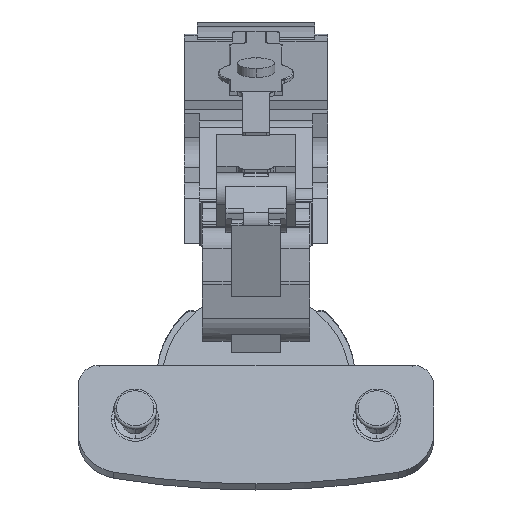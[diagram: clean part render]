
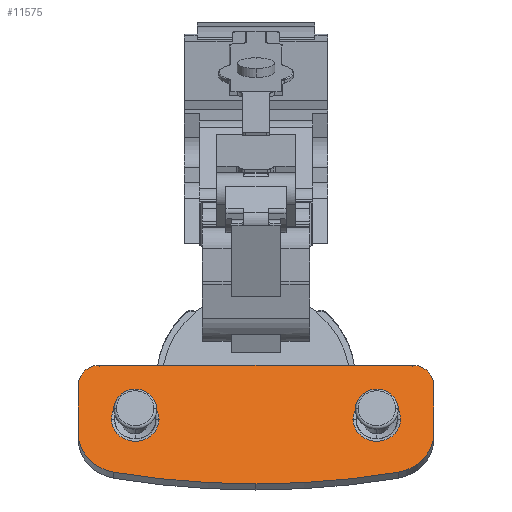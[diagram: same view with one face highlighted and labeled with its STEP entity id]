
A CAD part, top view. The second image highlights one B-rep face of the part: STEP entity #11575.
In plain terms, the highlighted planar face has unit normal (0, 0.375, 0.927).
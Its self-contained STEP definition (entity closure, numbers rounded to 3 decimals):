
#426 = ORIENTED_EDGE ( 'NONE', *, *, #11914, .T. ) ;
#720 = VERTEX_POINT ( 'NONE', #4295 ) ;
#815 = AXIS2_PLACEMENT_3D ( 'NONE', #29448, #22735, #8040 ) ;
#857 = CIRCLE ( 'NONE', #19828, 4. ) ;
#1746 = DIRECTION ( 'NONE',  ( 0., -0.375, -0.927 ) ) ;
#2323 = EDGE_CURVE ( 'NONE', #720, #29466, #18345, .T. ) ;
#3357 = DIRECTION ( 'NONE',  ( 0., 0.375, 0.927 ) ) ;
#3600 = VERTEX_POINT ( 'NONE', #28264 ) ;
#3622 = CARTESIAN_POINT ( 'NONE',  ( -6.657, 32.715, 100.286 ) ) ;
#3906 = CARTESIAN_POINT ( 'NONE',  ( 49.375, 22.61, 104.372 ) ) ;
#3995 = EDGE_LOOP ( 'NONE', ( #426, #9555 ) ) ;
#4295 = CARTESIAN_POINT ( 'NONE',  ( -10.657, 20.047, 105.409 ) ) ;
#5147 = CIRCLE ( 'NONE', #28134, 4. ) ;
#5459 = CARTESIAN_POINT ( 'NONE',  ( 47.543, 20.047, 105.409 ) ) ;
#5599 = CARTESIAN_POINT ( 'NONE',  ( -0.057, 22.61, 104.372 ) ) ;
#5696 = ORIENTED_EDGE ( 'NONE', *, *, #20021, .T. ) ;
#6056 = DIRECTION ( 'NONE',  ( 0., -0.375, -0.927 ) ) ;
#6125 = DIRECTION ( 'NONE',  ( -1., 0., 0. ) ) ;
#6297 = CARTESIAN_POINT ( 'NONE',  ( -10.657, 29.007, 101.786 ) ) ;
#6488 = CARTESIAN_POINT ( 'NONE',  ( 55.543, 29.007, 101.786 ) ) ;
#6533 = DIRECTION ( 'NONE',  ( 0., 0.375, 0.927 ) ) ;
#7154 = VECTOR ( 'NONE', #27814, 1000. ) ;
#7357 = DIRECTION ( 'NONE',  ( 0., -0.927, 0.375 ) ) ;
#7375 = CARTESIAN_POINT ( 'NONE',  ( -4.071, 12.748, 108.361 ) ) ;
#7465 = AXIS2_PLACEMENT_3D ( 'NONE', #23787, #20975, #7357 ) ;
#8040 = DIRECTION ( 'NONE',  ( 0., -0.927, 0.375 ) ) ;
#8276 = EDGE_LOOP ( 'NONE', ( #16983, #26265, #30826, #29656, #17511, #13938, #5696, #19051, #19020 ) ) ;
#8598 = FACE_OUTER_BOUND ( 'NONE', #8276, .T. ) ;
#8837 = CARTESIAN_POINT ( 'NONE',  ( 51.543, 32.715, 100.286 ) ) ;
#8934 = LINE ( 'NONE', #3622, #16544 ) ;
#9267 = AXIS2_PLACEMENT_3D ( 'NONE', #5599, #6056, #15613 ) ;
#9555 = ORIENTED_EDGE ( 'NONE', *, *, #13955, .T. ) ;
#9587 = VERTEX_POINT ( 'NONE', #22898 ) ;
#9590 = VERTEX_POINT ( 'NONE', #6297 ) ;
#9963 = CARTESIAN_POINT ( 'NONE',  ( -10.657, 20.047, 105.409 ) ) ;
#10161 = EDGE_CURVE ( 'NONE', #3600, #12617, #24582, .T. ) ;
#10315 = DIRECTION ( 'NONE',  ( 0., 0.375, 0.927 ) ) ;
#11041 = DIRECTION ( 'NONE',  ( 1., 0., 0. ) ) ;
#11201 = VERTEX_POINT ( 'NONE', #3906 ) ;
#11407 = EDGE_CURVE ( 'NONE', #17231, #23493, #5147, .T. ) ;
#11575 = ADVANCED_FACE ( 'NONE', ( #15482, #22987, #8598 ), #13124, .T. ) ;
#11914 = EDGE_CURVE ( 'NONE', #11201, #13875, #28640, .T. ) ;
#12617 = VERTEX_POINT ( 'NONE', #26973 ) ;
#13124 = PLANE ( 'NONE',  #18643 ) ;
#13725 = EDGE_LOOP ( 'NONE', ( #23392, #24676 ) ) ;
#13875 = VERTEX_POINT ( 'NONE', #20058 ) ;
#13938 = ORIENTED_EDGE ( 'NONE', *, *, #24291, .T. ) ;
#13955 = EDGE_CURVE ( 'NONE', #13875, #11201, #29870, .T. ) ;
#14294 = CIRCLE ( 'NONE', #815, 150. ) ;
#15155 = AXIS2_PLACEMENT_3D ( 'NONE', #17776, #20753, #11041 ) ;
#15364 = VERTEX_POINT ( 'NONE', #18145 ) ;
#15482 = FACE_BOUND ( 'NONE', #13725, .T. ) ;
#15613 = DIRECTION ( 'NONE',  ( 1., 0., 0. ) ) ;
#16080 = DIRECTION ( 'NONE',  ( 1., 0., 0. ) ) ;
#16478 = DIRECTION ( 'NONE',  ( 0., 0.375, 0.927 ) ) ;
#16544 = VECTOR ( 'NONE', #6125, 1000. ) ;
#16692 = DIRECTION ( 'NONE',  ( 0., -0.927, 0.375 ) ) ;
#16900 = VERTEX_POINT ( 'NONE', #21564 ) ;
#16983 = ORIENTED_EDGE ( 'NONE', *, *, #11407, .T. ) ;
#17231 = VERTEX_POINT ( 'NONE', #6488 ) ;
#17353 = DIRECTION ( 'NONE',  ( 0., 0.375, 0.927 ) ) ;
#17509 = DIRECTION ( 'NONE',  ( 0., -0.927, 0.375 ) ) ;
#17511 = ORIENTED_EDGE ( 'NONE', *, *, #2323, .T. ) ;
#17776 = CARTESIAN_POINT ( 'NONE',  ( 44.943, 22.61, 104.372 ) ) ;
#17931 = CARTESIAN_POINT ( 'NONE',  ( 55.543, 29.007, 101.786 ) ) ;
#18145 = CARTESIAN_POINT ( 'NONE',  ( -4.488, 22.61, 104.372 ) ) ;
#18345 = CIRCLE ( 'NONE', #18844, 8. ) ;
#18521 = EDGE_CURVE ( 'NONE', #23493, #16900, #8934, .T. ) ;
#18643 = AXIS2_PLACEMENT_3D ( 'NONE', #22684, #6533, #16080 ) ;
#18844 = AXIS2_PLACEMENT_3D ( 'NONE', #28374, #16478, #26039 ) ;
#18983 = VERTEX_POINT ( 'NONE', #21420 ) ;
#19020 = ORIENTED_EDGE ( 'NONE', *, *, #28842, .T. ) ;
#19029 = LINE ( 'NONE', #9963, #26599 ) ;
#19051 = ORIENTED_EDGE ( 'NONE', *, *, #10161, .T. ) ;
#19289 = DIRECTION ( 'NONE',  ( 0., -0.375, -0.927 ) ) ;
#19772 = EDGE_CURVE ( 'NONE', #15364, #9587, #25300, .T. ) ;
#19828 = AXIS2_PLACEMENT_3D ( 'NONE', #29489, #3357, #29939 ) ;
#20009 = DIRECTION ( 'NONE',  ( 0., -0.927, 0.375 ) ) ;
#20021 = EDGE_CURVE ( 'NONE', #18983, #3600, #14294, .T. ) ;
#20058 = CARTESIAN_POINT ( 'NONE',  ( 40.512, 22.61, 104.372 ) ) ;
#20291 = LINE ( 'NONE', #17931, #7154 ) ;
#20659 = EDGE_CURVE ( 'NONE', #16900, #9590, #857, .T. ) ;
#20753 = DIRECTION ( 'NONE',  ( 0., -0.375, -0.927 ) ) ;
#20915 = AXIS2_PLACEMENT_3D ( 'NONE', #21155, #1746, #23485 ) ;
#20975 = DIRECTION ( 'NONE',  ( 0., 0.375, 0.927 ) ) ;
#21155 = CARTESIAN_POINT ( 'NONE',  ( 44.943, 22.61, 104.372 ) ) ;
#21420 = CARTESIAN_POINT ( 'NONE',  ( 22.443, 10.558, 109.246 ) ) ;
#21564 = CARTESIAN_POINT ( 'NONE',  ( -6.657, 32.715, 100.286 ) ) ;
#21973 = DIRECTION ( 'NONE',  ( 1., 0., 0. ) ) ;
#22284 = CIRCLE ( 'NONE', #9267, 4.431 ) ;
#22684 = CARTESIAN_POINT ( 'NONE',  ( -4.093, 16.921, 106.673 ) ) ;
#22735 = DIRECTION ( 'NONE',  ( 0., 0.375, 0.927 ) ) ;
#22898 = CARTESIAN_POINT ( 'NONE',  ( 4.375, 22.61, 104.372 ) ) ;
#22987 = FACE_BOUND ( 'NONE', #3995, .T. ) ;
#23392 = ORIENTED_EDGE ( 'NONE', *, *, #24952, .T. ) ;
#23485 = DIRECTION ( 'NONE',  ( 1., 0., 0. ) ) ;
#23493 = VERTEX_POINT ( 'NONE', #8837 ) ;
#23787 = CARTESIAN_POINT ( 'NONE',  ( 22.443, 149.618, 53.011 ) ) ;
#23839 = CARTESIAN_POINT ( 'NONE',  ( -0.057, 22.61, 104.372 ) ) ;
#24291 = EDGE_CURVE ( 'NONE', #29466, #18983, #26965, .T. ) ;
#24582 = CIRCLE ( 'NONE', #28085, 8. ) ;
#24676 = ORIENTED_EDGE ( 'NONE', *, *, #19772, .T. ) ;
#24952 = EDGE_CURVE ( 'NONE', #9587, #15364, #22284, .T. ) ;
#25300 = CIRCLE ( 'NONE', #29764, 4.431 ) ;
#26039 = DIRECTION ( 'NONE',  ( 0., -0.927, 0.375 ) ) ;
#26153 = EDGE_CURVE ( 'NONE', #9590, #720, #19029, .T. ) ;
#26265 = ORIENTED_EDGE ( 'NONE', *, *, #18521, .T. ) ;
#26599 = VECTOR ( 'NONE', #16692, 1000. ) ;
#26775 = CARTESIAN_POINT ( 'NONE',  ( 51.543, 29.007, 101.786 ) ) ;
#26965 = CIRCLE ( 'NONE', #7465, 150. ) ;
#26973 = CARTESIAN_POINT ( 'NONE',  ( 55.543, 20.047, 105.409 ) ) ;
#27814 = DIRECTION ( 'NONE',  ( 0., 0.927, -0.375 ) ) ;
#28085 = AXIS2_PLACEMENT_3D ( 'NONE', #5459, #10315, #20009 ) ;
#28134 = AXIS2_PLACEMENT_3D ( 'NONE', #26775, #17353, #17509 ) ;
#28264 = CARTESIAN_POINT ( 'NONE',  ( 48.957, 12.748, 108.361 ) ) ;
#28374 = CARTESIAN_POINT ( 'NONE',  ( -2.657, 20.047, 105.409 ) ) ;
#28640 = CIRCLE ( 'NONE', #15155, 4.431 ) ;
#28842 = EDGE_CURVE ( 'NONE', #12617, #17231, #20291, .T. ) ;
#29448 = CARTESIAN_POINT ( 'NONE',  ( 22.443, 149.618, 53.011 ) ) ;
#29466 = VERTEX_POINT ( 'NONE', #7375 ) ;
#29489 = CARTESIAN_POINT ( 'NONE',  ( -6.657, 29.007, 101.786 ) ) ;
#29656 = ORIENTED_EDGE ( 'NONE', *, *, #26153, .T. ) ;
#29764 = AXIS2_PLACEMENT_3D ( 'NONE', #23839, #19289, #21973 ) ;
#29870 = CIRCLE ( 'NONE', #20915, 4.431 ) ;
#29939 = DIRECTION ( 'NONE',  ( 0., -0.927, 0.375 ) ) ;
#30826 = ORIENTED_EDGE ( 'NONE', *, *, #20659, .T. ) ;
